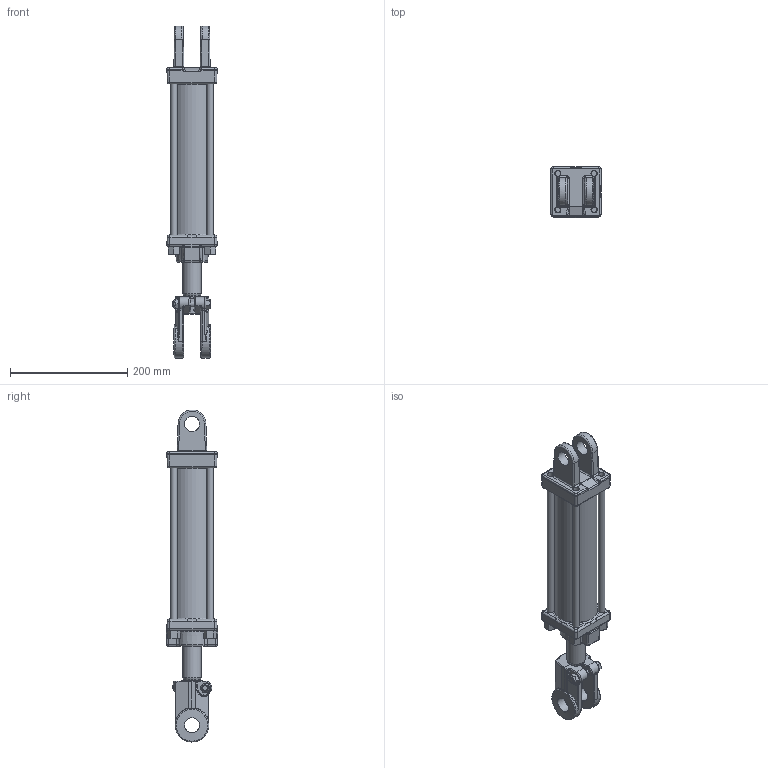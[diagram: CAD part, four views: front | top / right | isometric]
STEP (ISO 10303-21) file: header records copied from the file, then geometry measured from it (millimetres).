
FILE_DESCRIPTION((''),'2;1');
FILE_NAME('\\SRVR-ENG\EngSales\SAE-7008.stp','2012-09-26T15:04:29',('KneiflD'),(''),'Autodesk Inventor 2012','Autodesk Inventor 2012','');
FILE_SCHEMA(('AUTOMOTIVE_DESIGN { 1 0 10303 214 1 1 1 1 }'));
Length unit declared in the file: inch
Products named in the file (14): SAE-7008; 1413005SF; 051310063A; 010615750A; 071300111; 220000208; 081300146; 170201121; 220000105; 100000423; 100000422; 170002104; 220000203
Assembly tree (16 placements, depth 3):
  SAE-7008
    1413005SF
    051310063A
    010615750A
    071300111
    220000208
    081300146
    170201121  x4
      170201121
      220000105
    100000423
      100000422
      170002104
      220000203
Bounding box: 85.85 x 87.39 x 566.73 mm (x, y, z)
Volume: 1414521.7 mm3; surface area: 345036.5 mm2
Topology: 17 solids, 17 shells, 921 faces, 2207 edges, 1331 vertices
Faces by surface type: bspline 281, plane 271, cylinder 205, cone 107, torus 39, sphere 18
Full cylindrical faces by diameter (mm): 7.798 x1, 7.925 x1, 9.493 x1, 9.979 x4, 10.414 x2, 10.592 x4, 10.716 x4, 11.43 x4, 15.875 x2, 17.066 x1, 17.323 x3, 17.501 x1, 18.999 x1, 19.126 x1, 21.615 x1, 25.781 x4, 25.806 x1, 28.372 x1, 28.651 x2, 31.598 x1, 31.76 x1, 34.9 x1, 34.925 x2, 53.95 x1, 57.15 x2, 57.836 x1, 57.861 x1, 63.246 x6, 63.5 x1, 73.025 x1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
Entity records: 42683 total; most frequent: CARTESIAN_POINT 24601, ORIENTED_EDGE 3810, DIRECTION 3142, EDGE_CURVE 1905, AXIS2_PLACEMENT_3D 1259, VERTEX_POINT 1211, EDGE_LOOP 1006, FACE_OUTER_BOUND 837
